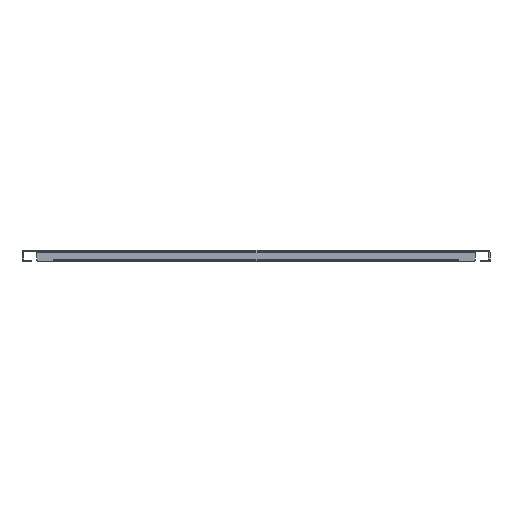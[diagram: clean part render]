
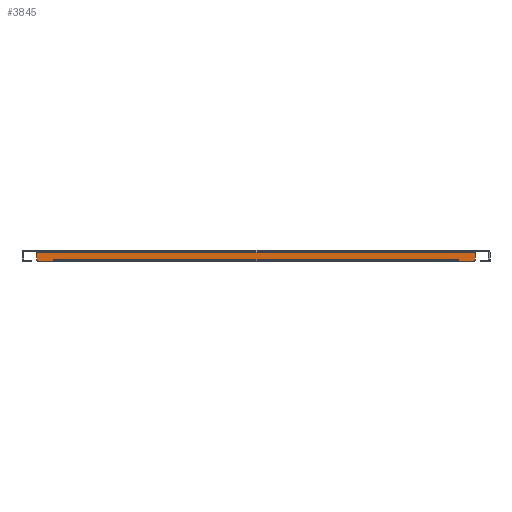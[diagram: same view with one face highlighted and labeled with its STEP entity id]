
A CAD part, front view. The second image highlights one B-rep face of the part: STEP entity #3845.
In plain terms, the highlighted planar face has unit normal (0, -1, 0).
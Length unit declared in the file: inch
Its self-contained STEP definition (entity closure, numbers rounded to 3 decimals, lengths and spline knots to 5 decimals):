
#117=PLANE('',#4194);
#269=FACE_OUTER_BOUND('',#509,.T.);
#509=EDGE_LOOP('',(#3133,#3134,#3135,#3136,#3137,#3138,#3139,#3140,#3141,
#3142,#3143,#3144,#3145,#3146));
#800=LINE('',#6060,#1198);
#820=LINE('',#6128,#1218);
#838=LINE('',#6189,#1236);
#841=LINE('',#6194,#1239);
#842=LINE('',#6198,#1240);
#843=LINE('',#6200,#1241);
#844=LINE('',#6202,#1242);
#845=LINE('',#6204,#1243);
#846=LINE('',#6206,#1244);
#847=LINE('',#6208,#1245);
#848=LINE('',#6210,#1246);
#849=LINE('',#6211,#1247);
#1198=VECTOR('',#4909,0.3937);
#1218=VECTOR('',#4963,0.3937);
#1236=VECTOR('',#5013,0.3937);
#1239=VECTOR('',#5018,0.3937);
#1240=VECTOR('',#5021,0.3937);
#1241=VECTOR('',#5022,0.3937);
#1242=VECTOR('',#5023,0.3937);
#1243=VECTOR('',#5024,0.3937);
#1244=VECTOR('',#5025,0.3937);
#1245=VECTOR('',#5026,0.3937);
#1246=VECTOR('',#5027,0.3937);
#1247=VECTOR('',#5028,0.3937);
#1521=CIRCLE('',#4192,0.125);
#1522=CIRCLE('',#4195,0.125);
#1776=VERTEX_POINT('',#6057);
#1777=VERTEX_POINT('',#6059);
#1807=VERTEX_POINT('',#6125);
#1808=VERTEX_POINT('',#6127);
#1834=VERTEX_POINT('',#6184);
#1835=VERTEX_POINT('',#6188);
#1837=VERTEX_POINT('',#6195);
#1838=VERTEX_POINT('',#6197);
#1839=VERTEX_POINT('',#6199);
#1840=VERTEX_POINT('',#6201);
#1841=VERTEX_POINT('',#6203);
#1842=VERTEX_POINT('',#6205);
#1843=VERTEX_POINT('',#6207);
#1844=VERTEX_POINT('',#6209);
#2242=EDGE_CURVE('',#1777,#1776,#800,.T.);
#2276=EDGE_CURVE('',#1808,#1807,#820,.T.);
#2305=EDGE_CURVE('',#1808,#1834,#1521,.T.);
#2307=EDGE_CURVE('',#1835,#1834,#838,.T.);
#2310=EDGE_CURVE('',#1777,#1807,#841,.T.);
#2311=EDGE_CURVE('',#1837,#1776,#1522,.T.);
#2312=EDGE_CURVE('',#1837,#1838,#842,.T.);
#2313=EDGE_CURVE('',#1838,#1839,#843,.T.);
#2314=EDGE_CURVE('',#1839,#1840,#844,.T.);
#2315=EDGE_CURVE('',#1840,#1841,#845,.T.);
#2316=EDGE_CURVE('',#1841,#1842,#846,.T.);
#2317=EDGE_CURVE('',#1842,#1843,#847,.T.);
#2318=EDGE_CURVE('',#1843,#1844,#848,.T.);
#2319=EDGE_CURVE('',#1844,#1835,#849,.T.);
#3133=ORIENTED_EDGE('',*,*,#2305,.F.);
#3134=ORIENTED_EDGE('',*,*,#2276,.T.);
#3135=ORIENTED_EDGE('',*,*,#2310,.F.);
#3136=ORIENTED_EDGE('',*,*,#2242,.T.);
#3137=ORIENTED_EDGE('',*,*,#2311,.F.);
#3138=ORIENTED_EDGE('',*,*,#2312,.T.);
#3139=ORIENTED_EDGE('',*,*,#2313,.T.);
#3140=ORIENTED_EDGE('',*,*,#2314,.T.);
#3141=ORIENTED_EDGE('',*,*,#2315,.T.);
#3142=ORIENTED_EDGE('',*,*,#2316,.T.);
#3143=ORIENTED_EDGE('',*,*,#2317,.T.);
#3144=ORIENTED_EDGE('',*,*,#2318,.T.);
#3145=ORIENTED_EDGE('',*,*,#2319,.T.);
#3146=ORIENTED_EDGE('',*,*,#2307,.T.);
#3845=ADVANCED_FACE('',(#269),#117,.F.);
#4192=AXIS2_PLACEMENT_3D('',#6185,#5008,#5009);
#4194=AXIS2_PLACEMENT_3D('',#6193,#5016,#5017);
#4195=AXIS2_PLACEMENT_3D('',#6196,#5019,#5020);
#4909=DIRECTION('',(0.,0.,-1.));
#4963=DIRECTION('',(0.,0.,1.));
#5008=DIRECTION('center_axis',(0.,1.,0.));
#5009=DIRECTION('ref_axis',(0.707,0.,-0.707));
#5013=DIRECTION('',(1.,0.,0.));
#5016=DIRECTION('center_axis',(0.,1.,0.));
#5017=DIRECTION('ref_axis',(0.,0.,1.));
#5018=DIRECTION('',(1.,0.,0.));
#5019=DIRECTION('center_axis',(0.,1.,0.));
#5020=DIRECTION('ref_axis',(-0.707,0.,-0.707));
#5021=DIRECTION('',(1.,0.,0.));
#5022=DIRECTION('',(0.,0.,1.));
#5023=DIRECTION('',(1.,0.,0.));
#5024=DIRECTION('',(0.,0.,-1.));
#5025=DIRECTION('',(1.,0.,0.));
#5026=DIRECTION('',(0.,0.,1.));
#5027=DIRECTION('',(1.,0.,0.));
#5028=DIRECTION('',(0.,0.,-1.));
#6057=CARTESIAN_POINT('',(-9.4375,-23.5,-0.319));
#6059=CARTESIAN_POINT('',(-9.4375,-23.5,-0.031));
#6060=CARTESIAN_POINT('',(-9.4375,-23.5,0.068));
#6125=CARTESIAN_POINT('',(9.4375,-23.5,-0.031));
#6127=CARTESIAN_POINT('',(9.4375,-23.5,-0.319));
#6128=CARTESIAN_POINT('',(9.4375,-23.5,-0.444));
#6184=CARTESIAN_POINT('',(9.3125,-23.5,-0.444));
#6185=CARTESIAN_POINT('Origin',(9.3125,-23.5,-0.319));
#6188=CARTESIAN_POINT('',(8.6877,-23.5,-0.444));
#6189=CARTESIAN_POINT('',(-9.4375,-23.5,-0.444));
#6193=CARTESIAN_POINT('Origin',(0.,-23.5,-0.188));
#6194=CARTESIAN_POINT('',(9.4375,-23.5,-0.031));
#6195=CARTESIAN_POINT('',(-9.3125,-23.5,-0.444));
#6196=CARTESIAN_POINT('Origin',(-9.3125,-23.5,-0.319));
#6197=CARTESIAN_POINT('',(-8.6877,-23.5,-0.444));
#6198=CARTESIAN_POINT('',(-9.4375,-23.5,-0.444));
#6199=CARTESIAN_POINT('',(-8.6877,-23.5,-0.3448));
#6200=CARTESIAN_POINT('',(-8.6877,-23.5,-0.316));
#6201=CARTESIAN_POINT('',(-8.6875,-23.5,-0.3448));
#6202=CARTESIAN_POINT('',(-4.34385,-23.5,-0.3448));
#6203=CARTESIAN_POINT('',(-8.6875,-23.5,-0.345));
#6204=CARTESIAN_POINT('',(-8.6875,-23.5,-0.2664));
#6205=CARTESIAN_POINT('',(8.6875,-23.5,-0.345));
#6206=CARTESIAN_POINT('',(4.34375,-23.5,-0.345));
#6207=CARTESIAN_POINT('',(8.6875,-23.5,-0.3448));
#6208=CARTESIAN_POINT('',(8.6875,-23.5,-0.316));
#6209=CARTESIAN_POINT('',(8.6877,-23.5,-0.3448));
#6210=CARTESIAN_POINT('',(4.34375,-23.5,-0.3448));
#6211=CARTESIAN_POINT('',(8.6877,-23.5,-0.2664));
